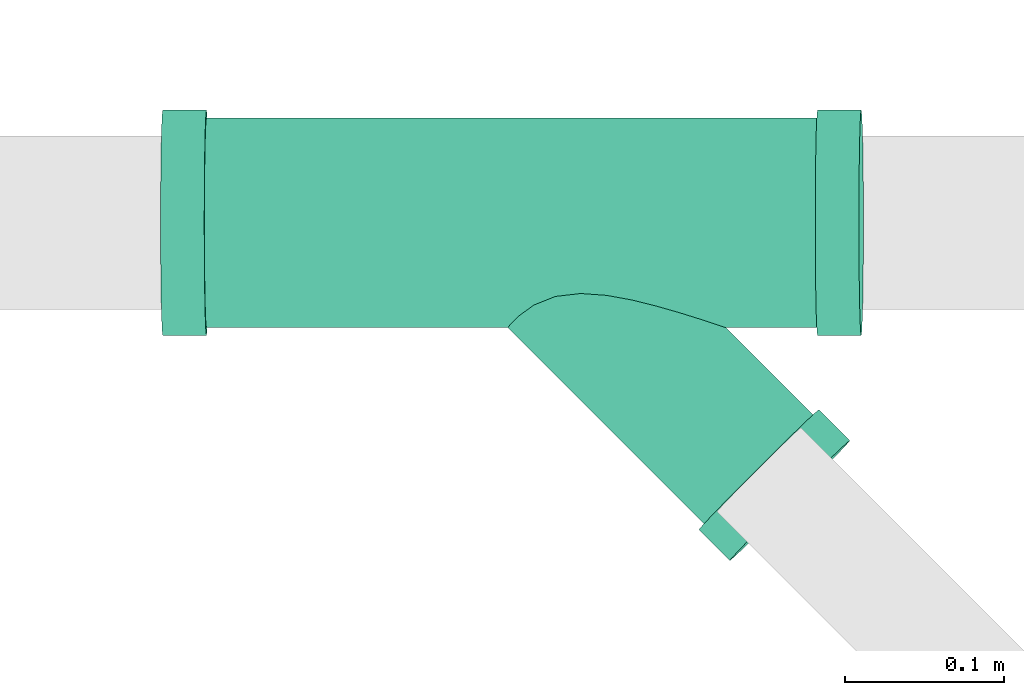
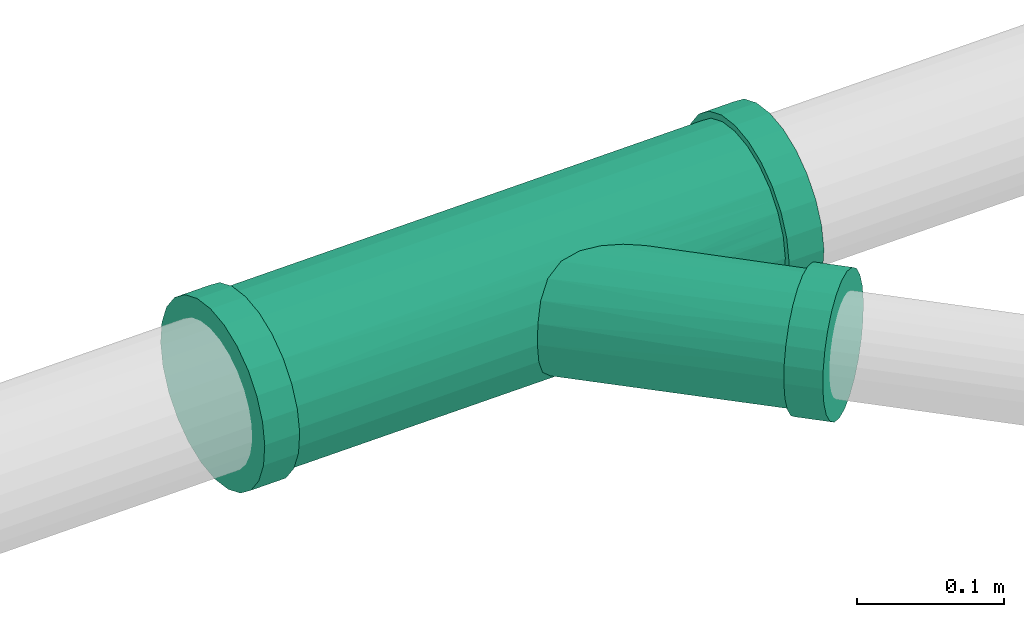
# One storey, part 69 of 83: 1 flow fitting.
"""IFC2X3 building model written with IfcOpenShell, lengths in millimetres."""

from ifc_helpers import new_model, entity, si_unit, converted_unit, derived_unit, direction, frame, origin_with_axes, place, context, subcontext, project, spatial, open_shell, surface_model, source, transform, mapped, type_object, element, save


model = new_model("IFC2X3")

# Units and contexts
model_context = context("Model", 3, precision=0.01, world=frame((0.0, 4.29681676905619e-09, 0.0)), true_north=direction((4.01073788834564e-13, 1.0)))
plan_context = context("Plan", 3, precision=0.01, world=frame((0.0, 4.29681676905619e-09, 0.0)), true_north=direction((4.01073788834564e-13, 1.0)))
body_context = subcontext(model_context, "Body", "Model", "MODEL_VIEW")
ifc_project = project(units=[converted_unit("PLANEANGLEUNIT", "DEGREE", entity("IfcPositiveLengthMeasure", 0.0174532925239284), si_unit("PLANEANGLEUNIT", "RADIAN"), dimensions=[0, 0, 0, 0, 0, 0, 0]), si_unit("AREAUNIT", "SQUARE_METRE"), si_unit("LENGTHUNIT", "METRE", prefix="MILLI"), si_unit("MASSUNIT", "GRAM", prefix="KILO"), si_unit("POWERUNIT", "WATT"), si_unit("PRESSUREUNIT", "PASCAL"), si_unit("FORCEUNIT", "NEWTON", prefix="KILO"), si_unit("ELECTRICVOLTAGEUNIT", "VOLT"), si_unit("ELECTRICCURRENTUNIT", "AMPERE"), si_unit("THERMODYNAMICTEMPERATUREUNIT", "DEGREE_CELSIUS"), si_unit("TIMEUNIT", "SECOND"), si_unit("VOLUMEUNIT", "CUBIC_METRE"), derived_unit("LINEARVELOCITYUNIT", [(si_unit("LENGTHUNIT", "METRE"), 1), (si_unit("TIMEUNIT", "SECOND"), -1)]), derived_unit("VOLUMETRICFLOWRATEUNIT", [(si_unit("VOLUMEUNIT", "CUBIC_METRE"), 1), (si_unit("TIMEUNIT", "SECOND"), -1)]), derived_unit("THERMALTRANSMITTANCEUNIT", [(si_unit("POWERUNIT", "WATT"), 1), (si_unit("THERMODYNAMICTEMPERATUREUNIT", "KELVIN"), -1), (si_unit("AREAUNIT", "SQUARE_METRE"), -1)]), derived_unit("SOUNDPRESSUREUNIT", [(si_unit("PRESSUREUNIT", "PASCAL"), 1)])], contexts=[model_context, plan_context])

# Site, building, storey
site_placement = place(None, frame((0.0, -4.29681676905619e-09, 0.0), z_axis=(0.0, 0.0, 1.0), x_axis=(1.0, 0.0, 0.0)))
site = spatial("IfcSite", under=ifc_project, at=site_placement, Name="ENGM", CompositionType="ELEMENT")
building_placement = place(site_placement, frame((0.0, 4.29681676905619e-09, 0.0), z_axis=(0.0, 0.0, 1.0), x_axis=(1.0, 0.0, 0.0)))
building = spatial("IfcBuilding", under=site, at=building_placement, Name="TI", CompositionType="ELEMENT")
storey_placement = place(building_placement, frame((0.0, 0.0, 204000.0), z_axis=(0.0, 0.0, 1.0), x_axis=(1.0, 0.0, 0.0)))
storey = spatial("IfcBuildingStorey", under=building, at=storey_placement, Name="Nivå D", CompositionType="ELEMENT", Elevation=204000.0)

# Flow fitting
pipe_fitting_type = type_object("IfcPipeFittingType", Name="magi_sewer_tee_wye_001", PredefinedType="JUNCTION")
shared_shape = source(origin_with_axes(), body_context, "Body", "SurfaceModel", [
    surface_model("IfcShellBasedSurfaceModel", [(-192.50001, 17.08206, -63.75111), (-192.50001, 0.0, -66.0), (-192.50001, 63.75111, -17.08206), (-192.50001, 33.0, -57.15768), (-192.50001, 46.66905, -46.66905), (-192.50001, 57.15768, -33.0), (-192.50001, -63.75111, -17.08206), (-192.50001, -33.0, -57.15768), (-192.50001, -46.66905, -46.66905), (-192.50001, -17.08206, -63.75111), (-192.50001, -57.15768, -33.0), (-192.50001, -66.0, 0.0), (-192.50001, 66.0, 0.0), (-192.50001, 63.75111, 17.08206), (-192.50001, 46.66905, 46.66905), (-192.50001, 57.15768, 33.0), (-192.50001, 33.0, 57.15768), (-192.50001, -33.0, 57.15768), (-192.50001, 17.08206, 63.75111), (-192.50001, 0.0, 66.0), (-192.50001, -57.15768, 33.0), (-192.50001, -46.66905, 46.66905), (-192.50001, -63.75111, 17.08206), (-192.50001, -17.08206, 63.75111), (192.50001, 63.75111, -17.08206), (192.50001, 0.0, -66.0), (192.50001, 17.08206, -63.75111), (192.50001, 46.66905, -46.66905), (192.50001, 33.0, -57.15768), (192.50001, 57.15768, -33.0), (192.50001, -63.75111, -17.08206), (192.50001, -17.08206, -63.75111), (192.50001, -46.66905, -46.66905), (192.50001, -33.0, -57.15768), (192.50001, -57.15768, -33.0), (192.50001, -63.75111, 17.08206), (192.50001, -66.0, 0.0), (192.50001, 46.66905, 46.66905), (192.50001, 66.0, 0.0), (192.50001, 63.75111, 17.08206), (192.50001, 57.15768, 33.0), (192.50001, 33.0, 57.15768), (192.50001, 0.0, 66.0), (192.50001, 17.08206, 63.75111), (192.50001, -46.66905, 46.66905), (192.50001, -57.15768, 33.0), (192.50001, -33.0, 57.15768), (192.50001, -17.08206, 63.75111), (192.50001, 0.0, -71.0), (192.50001, -50.20458, -50.20458), (192.50001, 18.37615, -68.58073), (192.50001, 35.5, -61.4878), (192.50001, 50.20458, -50.20458), (192.50001, 68.58073, -18.37615), (192.50001, 61.4878, -35.5), (192.50001, -35.5, -61.4878), (192.50001, -18.37615, -68.58073), (192.50001, -68.58073, -18.37615), (192.50001, -71.0, 0.0), (192.50001, -61.4878, -35.5), (192.50001, -35.5, 61.4878), (192.50001, 61.4878, 35.5), (192.50001, 68.58073, 18.37615), (192.50001, 18.37615, 68.58073), (192.50001, 35.5, 61.4878), (192.50001, 50.20458, 50.20458), (192.50001, -50.20458, 50.20458), (192.50001, -61.4878, 35.5), (192.50001, -68.58073, 18.37615), (192.50001, -18.37615, 68.58073), (192.50001, 0.0, 71.0), (192.50001, 71.0, 0.0), (220.0, 18.37615, -68.58073), (220.0, -50.20458, -50.20458), (220.0, 0.0, -71.0), (220.0, 50.20458, -50.20458), (220.0, 35.5, -61.4878), (220.0, 61.4878, -35.5), (220.0, 68.58073, -18.37615), (220.0, -18.37615, -68.58073), (220.0, -35.5, -61.4878), (220.0, -61.4878, -35.5), (220.0, -71.0, 0.0), (220.0, -68.58073, -18.37615), (220.0, 71.0, 0.0), (220.0, 68.58073, 18.37615), (220.0, 61.4878, 35.5), (220.0, -35.5, 61.4878), (220.0, 35.5, 61.4878), (220.0, 18.37615, 68.58073), (220.0, 50.20458, 50.20458), (220.0, -61.4878, 35.5), (220.0, -50.20458, 50.20458), (220.0, -68.58073, 18.37615), (220.0, 0.0, 71.0), (220.0, -18.37615, 68.58073), (-220.0, 0.0, -71.0), (-220.0, -50.20458, -50.20458), (-220.0, 18.37615, -68.58073), (-220.0, 35.5, -61.4878), (-220.0, 50.20458, -50.20458), (-220.0, 68.58073, -18.37615), (-220.0, 61.4878, -35.5), (-220.0, -35.5, -61.4878), (-220.0, -18.37615, -68.58073), (-220.0, -68.58073, -18.37615), (-220.0, -71.0, 0.0), (-220.0, -61.4878, -35.5), (-220.0, -35.5, 61.4878), (-220.0, 61.4878, 35.5), (-220.0, 68.58073, 18.37615), (-220.0, 18.37615, 68.58073), (-220.0, 35.5, 61.4878), (-220.0, 50.20458, 50.20458), (-220.0, -50.20458, 50.20458), (-220.0, -61.4878, 35.5), (-220.0, -68.58073, 18.37615), (-220.0, -18.37615, 68.58073), (-220.0, 0.0, 71.0), (-220.0, 71.0, 0.0), (-192.50001, 18.37615, -68.58073), (-192.50001, -50.20458, -50.20458), (-192.50001, 0.0, -71.0), (-192.50001, 50.20458, -50.20458), (-192.50001, 35.5, -61.4878), (-192.50001, 61.4878, -35.5), (-192.50001, 68.58073, -18.37615), (-192.50001, -18.37615, -68.58073), (-192.50001, -35.5, -61.4878), (-192.50001, -61.4878, -35.5), (-192.50001, -71.0, 0.0), (-192.50001, -68.58073, -18.37615), (-192.50001, 71.0, 0.0), (-192.50001, 68.58073, 18.37615), (-192.50001, 61.4878, 35.5), (-192.50001, -35.5, 61.4878), (-192.50001, 35.5, 61.4878), (-192.50001, 18.37615, 68.58073), (-192.50001, 50.20458, 50.20458), (-192.50001, -61.4878, 35.5), (-192.50001, -50.20458, 50.20458), (-192.50001, -68.58073, 18.37615), (-192.50001, 0.0, 71.0), (-192.50001, -18.37615, 68.58073), (192.50001, -64.87555, 8.54103), (129.56532, -64.28092, 14.96542), (132.09907, -65.14046, 7.48271), (124.05316, -62.46201, 20.5059), (75.86986, -48.70344, 44.54184), (192.50001, -51.91336, 39.83452), (105.26084, -56.49135, 34.1281), (118.54099, -60.64311, 26.04638), (90.90896, -52.38789, 40.1436), (192.50001, -60.45439, 25.04103), (192.50001, -62.10275, 21.06154), (-0.74856, -64.07627, 15.81872), (4.85552, -58.83232, 29.91251), (-2.57562, -66.0, 0.0), (134.63282, -66.0, 0.0), (14.59901, -51.99559, 40.65044), (28.37404, -46.58104, 46.75689), (44.24413, -44.7649, 48.4985), (60.27309, -45.89908, 47.42652), (44.24413, -44.7649, -48.4985), (105.26084, -56.49135, -34.1281), (192.50001, -51.91336, -39.83452), (129.56532, -64.28092, -14.96542), (124.05316, -62.46201, -20.5059), (75.86986, -48.70344, -44.54184), (90.90896, -52.38789, -40.1436), (132.09907, -65.14046, -7.48271), (192.50001, -64.87555, -8.54103), (118.54099, -60.64311, -26.04638), (60.27309, -45.89908, -47.42652), (192.50001, -60.45439, -25.04103), (192.50001, -62.10275, -21.06154), (28.37404, -46.58104, -46.75689), (14.59901, -51.99559, -40.65044), (4.85552, -58.83232, -29.91251), (-0.74856, -64.07627, -15.81872), (164.47137, -146.65176, -46.8474), (125.90355, -185.2363, -24.25), (155.59719, -155.52979, -48.5), (185.29082, -125.8233, -24.25), (172.7408, -138.37874, -42.00223), (188.71612, -122.39651, -12.55272), (179.84193, -131.27455, -34.29468), (138.45356, -172.68085, -42.00223), (131.35244, -179.78505, -34.29468), (146.72299, -164.40782, -46.8474), (121.30993, -189.83191, 0.0), (122.47824, -188.66308, -12.55272), (189.88443, -121.22768, 0.0), (179.84193, -131.27455, 34.29468), (188.71612, -122.39651, 12.55272), (185.29082, -125.8233, 24.25), (155.59719, -155.52979, 48.5), (172.7408, -138.37874, 42.00223), (138.45356, -172.68085, 42.00223), (164.47137, -146.65176, 46.8474), (131.35244, -179.78505, 34.29468), (125.90355, -185.2363, 24.25), (122.47824, -188.66308, 12.55272), (146.72299, -164.40782, 46.8474), (211.58009, -138.42193, 13.84682), (207.80165, -142.20199, 26.75), (201.79104, -148.21523, 37.83021), (184.83588, -165.17773, 51.67703), (137.22481, -212.80943, 0.0), (193.95784, -156.05181, 46.33236), (212.86886, -137.13261, 0.0), (207.80165, -142.20199, -26.75), (211.58009, -138.42193, -13.84682), (201.79104, -148.21523, -37.83021), (193.95784, -156.05181, -46.33236), (184.83588, -165.17773, -51.67703), (175.04684, -174.97102, 53.5), (165.25777, -184.76432, 51.67703), (156.13582, -193.89022, 46.33236), (148.30262, -201.7268, 37.83021), (142.29201, -207.74005, 26.75), (138.51357, -211.52012, 13.84682), (156.13582, -193.89022, -46.33236), (165.25777, -184.76432, -51.67703), (175.04684, -174.97102, -53.5), (148.30262, -201.7268, -37.83021), (138.51357, -211.52012, -13.84682), (142.29201, -207.74005, -26.75), (117.77516, -193.36819, 0.0), (119.06392, -192.07888, 13.84682), (122.84236, -188.29881, 26.75), (128.85298, -182.28558, 37.83021), (136.68617, -174.449, 46.33236), (145.80812, -165.3231, 51.67703), (193.41921, -117.69139, 0.0), (136.68617, -174.449, -46.33236), (119.06392, -192.07888, -13.84682), (128.85298, -182.28558, -37.83021), (122.84236, -188.29881, -26.75), (145.80812, -165.3231, -51.67703), (165.38623, -145.73649, -51.67703), (155.59719, -155.52979, -53.5), (155.59719, -155.52979, 53.5), (165.38623, -145.73649, 51.67703), (182.3414, -128.774, 37.83021), (174.50819, -136.61059, 46.33236), (188.352, -122.76078, 26.75), (192.13044, -118.9807, 13.84682), (174.50819, -136.61059, -46.33236), (182.3414, -128.774, -37.83021), (188.352, -122.76078, -26.75), (192.13044, -118.9807, -13.84682)], [open_shell([[[0, 1, 2]], [[3, 0, 4]], [[2, 5, 4]], [[0, 2, 4]], [[6, 2, 1]], [[7, 8, 9]], [[8, 1, 9]], [[10, 6, 8]], [[8, 6, 1]], [[6, 11, 2]], [[11, 12, 2]], [[13, 12, 14]], [[15, 13, 14]], [[16, 11, 17]], [[14, 12, 16]], [[18, 16, 19]], [[20, 21, 22]], [[17, 22, 21]], [[23, 19, 17]], [[17, 11, 22]], [[17, 19, 16]], [[12, 11, 16]], [[24, 25, 26]], [[27, 26, 28]], [[27, 29, 24]], [[27, 24, 26]], [[25, 24, 30]], [[31, 32, 33]], [[31, 25, 32]], [[32, 30, 34]], [[25, 30, 32]], [[30, 35, 36]], [[30, 24, 35]], [[37, 38, 39]], [[37, 39, 40]], [[38, 41, 35]], [[41, 38, 37]], [[42, 41, 43]], [[35, 44, 45]], [[44, 35, 46]], [[46, 42, 47]], [[46, 35, 41]], [[41, 42, 46]], [[38, 35, 24]], [[15, 37, 40]], [[14, 41, 37]], [[12, 39, 38]], [[16, 41, 14]], [[15, 14, 37]], [[13, 15, 40]], [[39, 12, 13]], [[12, 38, 2]], [[29, 4, 5]], [[4, 27, 3]], [[5, 2, 24]], [[0, 3, 28]], [[48, 49, 50]], [[51, 50, 52]], [[53, 54, 52]], [[52, 50, 49]], [[53, 52, 49]], [[55, 49, 56]], [[49, 48, 56]], [[57, 58, 59]], [[49, 59, 58]], [[49, 58, 53]], [[58, 60, 53]], [[53, 61, 62]], [[53, 63, 61]], [[61, 63, 64]], [[65, 61, 64]], [[60, 63, 53]], [[66, 60, 67]], [[67, 58, 68]], [[69, 70, 60]], [[67, 60, 58]], [[60, 70, 63]], [[71, 53, 62]], [[72, 73, 74]], [[75, 72, 76]], [[75, 77, 78]], [[73, 72, 75]], [[73, 75, 78]], [[79, 73, 80]], [[79, 74, 73]], [[81, 82, 83]], [[82, 81, 73]], [[78, 82, 73]], [[78, 84, 82]], [[84, 85, 86]], [[82, 86, 87]], [[88, 89, 86]], [[88, 86, 90]], [[87, 86, 89]], [[91, 87, 92]], [[93, 82, 91]], [[87, 94, 95]], [[82, 87, 91]], [[89, 94, 87]], [[84, 86, 82]], [[93, 58, 82]], [[91, 68, 93]], [[66, 92, 87]], [[91, 92, 67]], [[60, 87, 95]], [[91, 67, 68]], [[68, 58, 93]], [[69, 94, 70]], [[69, 60, 95]], [[66, 87, 60]], [[66, 67, 92]], [[94, 69, 95]], [[88, 63, 89]], [[90, 64, 88]], [[61, 86, 85]], [[90, 86, 65]], [[62, 85, 84]], [[88, 64, 63]], [[63, 70, 89]], [[62, 61, 85]], [[65, 86, 61]], [[65, 64, 90]], [[71, 62, 84]], [[89, 70, 94]], [[78, 71, 84]], [[77, 53, 78]], [[52, 75, 76]], [[77, 75, 54]], [[51, 76, 72]], [[77, 54, 53]], [[53, 71, 78]], [[50, 74, 48]], [[50, 51, 72]], [[52, 76, 51]], [[52, 54, 75]], [[74, 50, 72]], [[80, 56, 79]], [[73, 55, 80]], [[83, 82, 57]], [[73, 81, 49]], [[81, 83, 59]], [[80, 55, 56]], [[56, 48, 79]], [[58, 57, 82]], [[49, 81, 59]], [[49, 55, 73]], [[83, 57, 59]], [[79, 48, 74]], [[96, 97, 98]], [[99, 98, 100]], [[101, 102, 100]], [[100, 98, 97]], [[101, 100, 97]], [[103, 97, 104]], [[97, 96, 104]], [[105, 106, 107]], [[97, 107, 106]], [[97, 106, 101]], [[106, 108, 101]], [[101, 109, 110]], [[101, 111, 109]], [[109, 111, 112]], [[113, 109, 112]], [[108, 111, 101]], [[114, 108, 115]], [[115, 106, 116]], [[117, 118, 108]], [[115, 108, 106]], [[108, 118, 111]], [[119, 101, 110]], [[120, 121, 122]], [[123, 120, 124]], [[123, 125, 126]], [[121, 120, 123]], [[121, 123, 126]], [[127, 121, 128]], [[127, 122, 121]], [[129, 130, 131]], [[130, 129, 121]], [[126, 130, 121]], [[126, 132, 130]], [[132, 133, 134]], [[130, 134, 135]], [[136, 137, 134]], [[136, 134, 138]], [[135, 134, 137]], [[139, 135, 140]], [[141, 130, 139]], [[135, 142, 143]], [[130, 135, 139]], [[137, 142, 135]], [[132, 134, 130]], [[141, 106, 130]], [[139, 116, 141]], [[114, 140, 135]], [[139, 140, 115]], [[108, 135, 143]], [[139, 115, 116]], [[116, 106, 141]], [[117, 142, 118]], [[117, 108, 143]], [[114, 135, 108]], [[114, 115, 140]], [[142, 117, 143]], [[136, 111, 137]], [[138, 112, 136]], [[109, 134, 133]], [[138, 134, 113]], [[110, 133, 132]], [[136, 112, 111]], [[111, 118, 137]], [[110, 109, 133]], [[113, 134, 109]], [[113, 112, 138]], [[119, 110, 132]], [[137, 118, 142]], [[126, 119, 132]], [[125, 101, 126]], [[100, 123, 124]], [[125, 123, 102]], [[99, 124, 120]], [[125, 102, 101]], [[101, 119, 126]], [[98, 122, 96]], [[98, 99, 120]], [[100, 124, 99]], [[100, 102, 123]], [[122, 98, 120]], [[128, 104, 127]], [[121, 103, 128]], [[131, 130, 105]], [[121, 129, 97]], [[129, 131, 107]], [[128, 103, 104]], [[104, 96, 127]], [[106, 105, 130]], [[97, 129, 107]], [[97, 103, 121]], [[131, 105, 107]], [[127, 96, 122]], [[19, 47, 42]], [[47, 23, 46]], [[18, 42, 43]], [[40, 39, 13]], [[43, 41, 16]], [[23, 17, 46]], [[47, 19, 23]], [[18, 19, 42]], [[43, 16, 18]], [[24, 29, 5]], [[38, 24, 2]], [[4, 29, 27]], [[25, 31, 9]], [[0, 28, 26]], [[1, 26, 25]], [[27, 28, 3]], [[7, 31, 33]], [[26, 1, 0]], [[9, 1, 25]], [[31, 7, 9]], [[144, 35, 145]], [[36, 144, 146]], [[35, 147, 145]], [[44, 148, 149]], [[150, 151, 45]], [[150, 45, 149]], [[148, 152, 149]], [[45, 151, 153]], [[147, 35, 154]], [[155, 156, 22]], [[157, 155, 11]], [[11, 155, 22]], [[156, 20, 22]], [[147, 153, 151]], [[36, 146, 158]], [[20, 159, 21]], [[159, 20, 156]], [[21, 159, 160]], [[160, 161, 21]], [[144, 145, 146]], [[150, 149, 152]], [[148, 44, 162]], [[162, 44, 161]], [[161, 44, 46]], [[17, 21, 161]], [[161, 46, 17]], [[153, 147, 154]], [[163, 8, 7]], [[163, 7, 33]], [[33, 32, 163]], [[34, 164, 165]], [[30, 166, 167]], [[168, 32, 165]], [[169, 165, 164]], [[36, 170, 171]], [[34, 172, 164]], [[32, 168, 173]], [[158, 170, 36]], [[172, 174, 167]], [[166, 171, 170]], [[167, 175, 30]], [[176, 8, 163]], [[172, 34, 174]], [[8, 177, 10]], [[177, 8, 176]], [[10, 177, 178]], [[166, 30, 171]], [[168, 165, 169]], [[178, 179, 6]], [[167, 174, 175]], [[179, 11, 6]], [[11, 179, 157]], [[178, 6, 10]], [[32, 173, 163]], [[180, 181, 182]], [[183, 180, 184]], [[183, 185, 180]], [[183, 184, 186]], [[181, 180, 185]], [[187, 181, 188]], [[187, 189, 182]], [[181, 190, 191]], [[181, 187, 182]], [[190, 181, 185]], [[185, 192, 190]], [[193, 192, 194]], [[193, 194, 195]], [[196, 193, 197]], [[192, 193, 198]], [[199, 196, 197]], [[200, 201, 190]], [[202, 190, 201]], [[198, 196, 203]], [[190, 198, 200]], [[196, 198, 193]], [[192, 198, 190]], [[155, 202, 201]], [[200, 156, 201]], [[160, 198, 203]], [[200, 198, 159]], [[161, 203, 196]], [[190, 202, 157]], [[202, 155, 157]], [[156, 200, 159]], [[201, 156, 155]], [[160, 159, 198]], [[203, 161, 160]], [[196, 162, 161]], [[148, 199, 197]], [[193, 152, 197]], [[145, 195, 194]], [[193, 195, 151]], [[158, 194, 192]], [[199, 148, 162]], [[148, 197, 152]], [[158, 145, 194]], [[151, 150, 193]], [[145, 151, 195]], [[152, 193, 150]], [[199, 162, 196]], [[158, 192, 185]], [[183, 166, 185]], [[169, 186, 184]], [[183, 186, 172]], [[168, 184, 180]], [[166, 158, 185]], [[172, 166, 183]], [[169, 164, 186]], [[168, 169, 184]], [[180, 173, 168]], [[172, 186, 164]], [[180, 182, 173]], [[176, 189, 187]], [[188, 177, 187]], [[179, 181, 191]], [[188, 181, 178]], [[157, 191, 190]], [[189, 163, 182]], [[189, 176, 163]], [[182, 163, 173]], [[187, 177, 176]], [[188, 178, 177]], [[179, 178, 181]], [[191, 157, 179]], [[204, 205, 206]], [[204, 206, 207]], [[204, 207, 208]], [[207, 206, 209]], [[210, 204, 208]], [[210, 211, 212]], [[211, 210, 213]], [[210, 214, 213]], [[214, 210, 215]], [[215, 210, 208]], [[216, 208, 207]], [[217, 218, 219]], [[219, 208, 216]], [[220, 221, 208]], [[220, 208, 219]], [[222, 215, 208]], [[215, 223, 224]], [[222, 223, 215]], [[225, 226, 227]], [[225, 222, 208]], [[226, 225, 208]], [[216, 217, 219]], [[228, 229, 230]], [[228, 230, 231]], [[232, 233, 228]], [[232, 228, 231]], [[234, 235, 228]], [[236, 237, 238]], [[236, 228, 237]], [[239, 240, 241]], [[237, 228, 235]], [[239, 235, 240]], [[228, 233, 242]], [[228, 243, 234]], [[244, 243, 245]], [[244, 246, 247]], [[244, 247, 243]], [[234, 243, 247]], [[248, 234, 249]], [[240, 235, 248]], [[250, 234, 251]], [[234, 250, 249]], [[234, 248, 235]], [[228, 242, 243]], [[240, 215, 241]], [[248, 214, 240]], [[211, 249, 250]], [[248, 249, 213]], [[212, 250, 251]], [[240, 214, 215]], [[215, 224, 241]], [[212, 211, 250]], [[213, 249, 211]], [[213, 214, 248]], [[210, 212, 251]], [[251, 234, 210]], [[247, 204, 234]], [[246, 205, 247]], [[209, 244, 245]], [[246, 244, 206]], [[207, 245, 243]], [[246, 206, 205]], [[205, 204, 247]], [[216, 207, 243]], [[209, 245, 207]], [[209, 206, 244]], [[242, 216, 243]], [[234, 204, 210]], [[233, 217, 242]], [[232, 218, 233]], [[220, 231, 230]], [[232, 231, 219]], [[221, 230, 229]], [[233, 218, 217]], [[217, 216, 242]], [[221, 220, 230]], [[219, 231, 220]], [[219, 218, 232]], [[208, 221, 229]], [[229, 228, 208]], [[236, 226, 228]], [[238, 227, 236]], [[239, 241, 223]], [[237, 225, 238]], [[238, 225, 227]], [[227, 226, 236]], [[235, 222, 225]], [[235, 239, 222]], [[222, 239, 223]], [[241, 224, 223]], [[235, 225, 237]], [[228, 226, 208]]])]),
])
flow_fitting_placement = place(storey_placement, frame((608743.79091, 694372.51419, 6227.73573000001), z_axis=(-0.0199950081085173, 0.00462000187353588, 0.99978940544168), x_axis=(0.999800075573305, -3.60288241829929e-09, 0.0199952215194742)))
element("IfcFlowFitting", 1, at=flow_fitting_placement, inside=storey, type_object=pipe_fitting_type, Name="magi_sewer_tee_wye_001", context=body_context, shape_type="MappedRepresentation", body=[
    mapped(shared_shape, transform((0.0, 0.0, 0.0), scale=1.0)),
])

save(model, "model.ifc")
